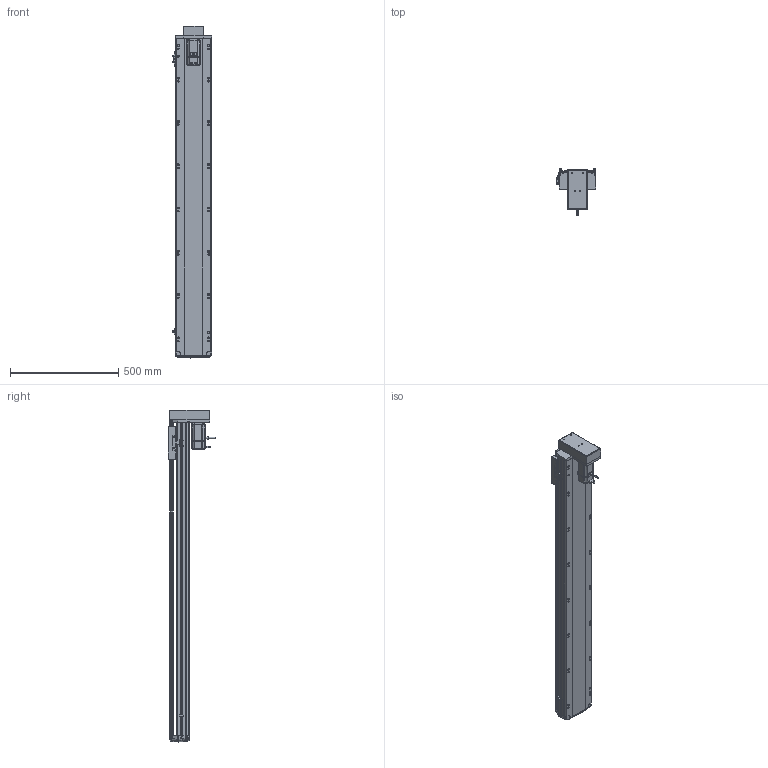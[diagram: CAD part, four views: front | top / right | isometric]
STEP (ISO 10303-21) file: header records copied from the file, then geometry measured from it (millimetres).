
FILE_DESCRIPTION (( 'STEP AP214' ), '1' );
FILE_NAME ('RTH17-XX-1250-M-M40-C4.STEP', '2025-10-24T09:10:43', ( '' ), ( '' ), 'SwSTEP 2.0', 'SolidWorks 2018', '' );
FILE_SCHEMA (( 'AUTOMOTIVE_DESIGN' ));
Length unit declared in the file: millimetre
Products named in the file (10): N_M40^RTH17-XX-XX-M-M40-C4（方程式）; N_OMRON EE-SX672 換覜ん^RTH17-XX-XX-M-M40-C4ㄗ源最宒ㄘ; N_RTH17-M-008-P40电机安装板下折^RTH17-XX-XX-M-M40-C4（方程式）; N_RTH17-E-004丝杆螺母连接座^RTH17-XX-XX-M-M40-C4（方程式）; N_RTH17-M-007上盖^RTH17-XX-XX-M-M40-C4（方程式）; N_RTH17-GY-001P^RTH17-XX-XX-M-M40-C4（方程式）; N_RTH-BL-012 感应片(外置)^RTH17-XX-XX-M-M40-C4（方程式）; N_RTH17-M-018盖子^RTH17-XX-XX-M-M40-C4（方程式）; RTH17-XX-1250-M-M40-C4; N_RTH17-M-011底座^RTH17-XX-XX-M-M40-C4（方程式）
Assembly tree (11 placements, depth 2):
  RTH17-XX-1250-M-M40-C4
    N_RTH17-M-011底座^RTH17-XX-XX-M-M40-C4（方程式）
    N_RTH17-M-007上盖^RTH17-XX-XX-M-M40-C4（方程式）
    N_M40^RTH17-XX-XX-M-M40-C4（方程式）
    N_OMRON EE-SX672 換覜ん^RTH17-XX-XX-M-M40-C4ㄗ源最宒ㄘ  x3
    N_RTH-BL-012 感应片(外置)^RTH17-XX-XX-M-M40-C4（方程式）
    N_RTH17-M-008-P40电机安装板下折^RTH17-XX-XX-M-M40-C4（方程式）
    N_RTH17-M-018盖子^RTH17-XX-XX-M-M40-C4（方程式）
    N_RTH17-E-004丝杆螺母连接座^RTH17-XX-XX-M-M40-C4（方程式）
    N_RTH17-GY-001P^RTH17-XX-XX-M-M40-C4（方程式）
Bounding box: 183.5 x 219 x 1533.19 mm (x, y, z)
Volume: 11614165.9 mm3; surface area: 1604421.9 mm2
Topology: 10 solids, 12 shells, 1695 faces, 4752 edges, 3100 vertices
Faces by surface type: plane 836, cylinder 492, bspline 330, cone 28, torus 9
Entity records: 50120 total; most frequent: CARTESIAN_POINT 20168, ORIENTED_EDGE 6528, DIRECTION 5380, EDGE_CURVE 3268, VERTEX_POINT 2136, VECTOR 1810, LINE 1810, AXIS2_PLACEMENT_3D 1785
